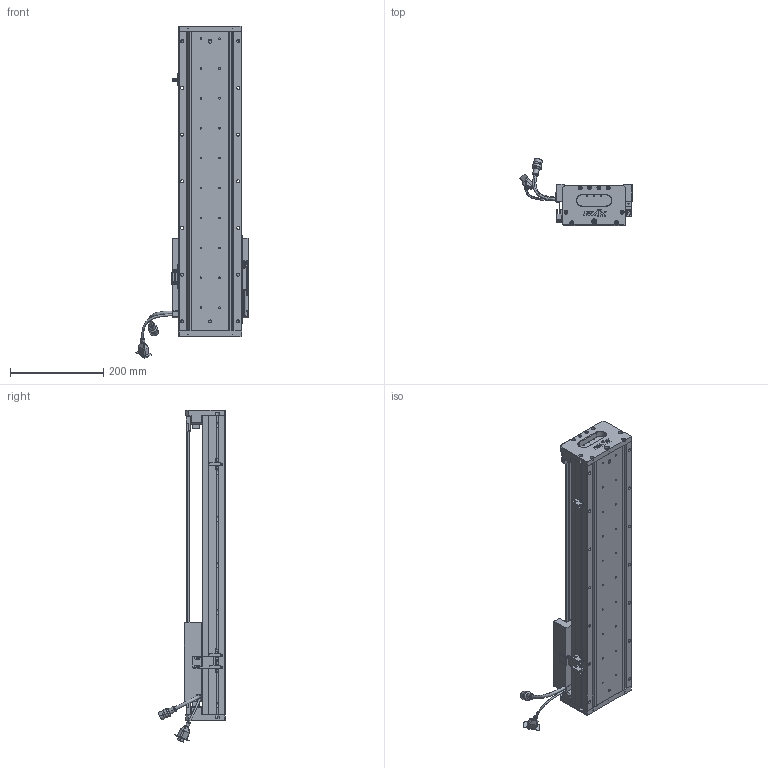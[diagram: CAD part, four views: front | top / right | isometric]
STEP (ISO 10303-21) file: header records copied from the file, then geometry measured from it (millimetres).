
FILE_DESCRIPTION (( 'STEP AP203' ), '1' );
FILE_NAME ('Z2-RY140D-1-L500-B-K.SLDASM_0400.step', '2021-05-17T07:44:50', ( '盈信电脑' ), ( '东莞市道滘镇水果街19号' ), 'SwSTEP 2.0', 'SolidWorks 2016', '' );
FILE_SCHEMA (( 'CONFIG_CONTROL_DESIGN' ));
Length unit declared in the file: millimetre
Products named in the file (36): SCREW-M1.6-3; HARNESS; SHIELDPLATE; SEAL-Part-1; Z2-RY140圉猾敕臏賑輸(21遴); 140雄赽晤鎢ん堤盄; HOLDER0; Z2-RY140-L500詩湍100mm遵_0400; Z2-RY140-L500直线电机模组底座_0400; SCALE-Part-1; Z-140詩湍傷裔啣; SCREW-M1.6-1; PBU_SHEET; 140蚥薯蝶輸; SCREW-M1.6; HARNESS-Part-2; COVER; SCALE-Part-2; SCALE; LABEL; HARNESS-Part-1; Z-RY140感应器672光电感应片; Z2-RY140D-1-L500-B-K.SLDASM_0400; LABEL-Part-1; Z-RY140詩湍狟揤裔; 080黍杅芛假蚾釱21遴; SCREW-M1.7; PSLH080_PSLF2; 榋妏寠巭燃_暯_M2_2; 覜茼ん672; SCREW-M1.7-1; Z-RY140詩湍奻揤裔; 140-Z-臏賑輸盄裔(21遴); SEAL; SCREW-M1.6-2; COVER-Part-1
Assembly tree (41 placements, depth 4):
  Z2-RY140D-1-L500-B-K.SLDASM_0400
    Z2-RY140-L500直线电机模组底座_0400
    Z-RY140感应器672光电感应片
    Z2-RY140圉猾敕臏賑輸(21遴)
    覜茼ん672  x3
    Z2-RY140-L500詩湍100mm遵_0400
    PSLH080_PSLF2
      SCALE
        SCALE-Part-1
        SCALE-Part-2
      HARNESS
        HARNESS-Part-1
        HARNESS-Part-2
      LABEL
        LABEL-Part-1
      COVER
        COVER-Part-1
      SEAL
        SEAL-Part-1
      榋妏寠巭燃_暯_M2_2
      SHIELDPLATE
      SCREW-M1.7
      SCREW-M1.7-1
      PBU_SHEET
      SCREW-M1.6
      SCREW-M1.6-1
      SCREW-M1.6-2
      SCREW-M1.6-3
      HOLDER0
    080黍杅芛假蚾釱21遴
    140-Z-臏賑輸盄裔(21遴)
    Z-140詩湍傷裔啣  x2
    Z-RY140詩湍狟揤裔  x2
    Z-RY140詩湍奻揤裔  x2
    140蚥薯蝶輸  x2
    140雄赽晤鎢ん堤盄
Bounding box: 239.84 x 143.77 x 710.88 mm (x, y, z)
Volume: 2816849.4 mm3; surface area: 740810.8 mm2
Topology: 36 solids, 36 shells, 2714 faces, 7094 edges, 4496 vertices
Faces by surface type: cylinder 1224, plane 1100, cone 258, torus 79, bspline 53
Entity records: 77894 total; most frequent: CARTESIAN_POINT 19124, DIRECTION 11462, ORIENTED_EDGE 11384, EDGE_CURVE 5692, AXIS2_PLACEMENT_3D 4202, VERTEX_POINT 3664, VECTOR 3058, LINE 3058
